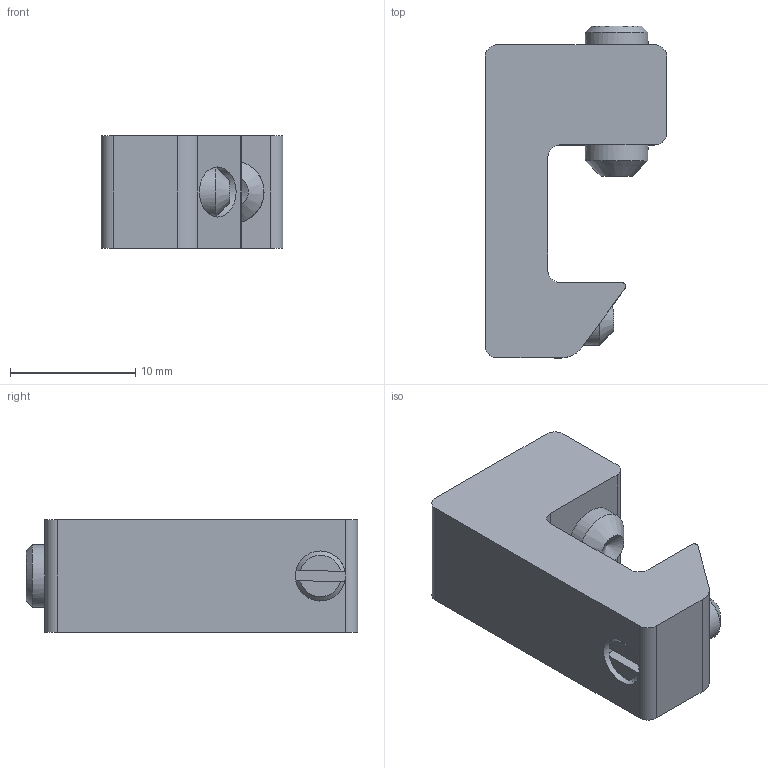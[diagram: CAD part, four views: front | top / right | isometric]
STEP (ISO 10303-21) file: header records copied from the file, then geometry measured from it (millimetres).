
FILE_DESCRIPTION((''),'2;1');
FILE_NAME('C:\TurckZip\KLA-1.stp','2009-03-20T09:37:02',('IKOROL'),(''),'Autodesk Inventor 2009','Autodesk Inventor 2009','');
FILE_SCHEMA(('CONFIG_CONTROL_DESIGN'));
Length unit declared in the file: millimetre
Products named in the file (1): Part12
Bounding box: 14.5 x 26.49 x 9 mm (x, y, z)
Volume: 2079.8 mm3; surface area: 1333.9 mm2
Topology: 1 solids, 1 shells, 49 faces, 119 edges, 73 vertices
Faces by surface type: plane 28, cylinder 13, cone 8
Full cylindrical faces by diameter (mm): 4 x1, 5 x2
Entity records: 1384 total; most frequent: DIRECTION 239, CARTESIAN_POINT 227, ORIENTED_EDGE 206, EDGE_CURVE 103, AXIS2_PLACEMENT_3D 90, VERTEX_POINT 66, EDGE_LOOP 59, VECTOR 59
